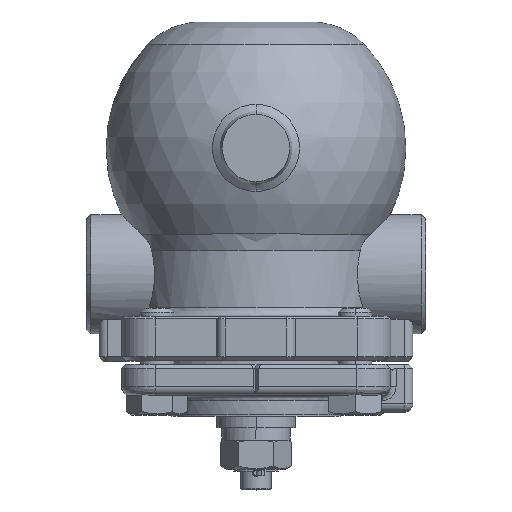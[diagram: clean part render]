
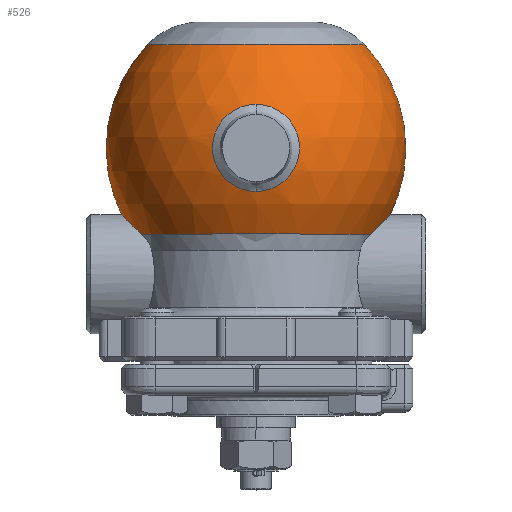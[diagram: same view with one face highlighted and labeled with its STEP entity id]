
A CAD part, top view. The second image highlights one B-rep face of the part: STEP entity #526.
In plain terms, the highlighted spherical face has radius 53.5 mm.
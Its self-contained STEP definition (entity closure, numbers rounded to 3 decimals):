
#526=ADVANCED_FACE('',(#4769,#4770),#4768,.T.);
#4768=SPHERICAL_SURFACE('',#8615,53.5);
#4769=FACE_OUTER_BOUND('',#8616,.T.);
#4770=FACE_BOUND('',#8617,.T.);
#8612=CARTESIAN_POINT('',(0.,67.3,0.));
#8613=DIRECTION('',(0.,-1.,0.));
#8614=DIRECTION('',(1.,0.,-0.009));
#8615=AXIS2_PLACEMENT_3D('',#8612,#8613,#8614);
#8616=EDGE_LOOP('',(#11435,#11436,#11437,#11438,#11439,#11440,#11441,#11442));
#8617=EDGE_LOOP('',(#11443,#11444));
#11435=ORIENTED_EDGE('',*,*,#12817,.T.);
#11436=ORIENTED_EDGE('',*,*,#12289,.F.);
#11437=ORIENTED_EDGE('',*,*,#12805,.T.);
#11438=ORIENTED_EDGE('',*,*,#12811,.T.);
#11439=ORIENTED_EDGE('',*,*,#12843,.F.);
#11440=ORIENTED_EDGE('',*,*,#12825,.T.);
#11441=ORIENTED_EDGE('',*,*,#12823,.T.);
#11442=ORIENTED_EDGE('',*,*,#12844,.T.);
#11443=ORIENTED_EDGE('',*,*,#12832,.T.);
#11444=ORIENTED_EDGE('',*,*,#12827,.T.);
#12289=EDGE_CURVE('',#16729,#16736,#16737,.T.);
#12805=EDGE_CURVE('',#16729,#20098,#20099,.T.);
#12811=EDGE_CURVE('',#20098,#20131,#20138,.T.);
#12817=EDGE_CURVE('',#20178,#16736,#20179,.T.);
#12823=EDGE_CURVE('',#20218,#20211,#20219,.T.);
#12825=EDGE_CURVE('',#20231,#20218,#20232,.T.);
#12827=EDGE_CURVE('',#20244,#20245,#20246,.T.);
#12832=EDGE_CURVE('',#20245,#20244,#20278,.T.);
#12843=EDGE_CURVE('',#20231,#20131,#20348,.T.);
#12844=EDGE_CURVE('',#20211,#20178,#20354,.T.);
#16729=VERTEX_POINT('',#23731);
#16736=VERTEX_POINT('',#23742);
#16737=CIRCLE('',#23746,43.811);
#20098=VERTEX_POINT('',#26023);
#20099=(BOUNDED_CURVE() B_SPLINE_CURVE(3,(#26024,#26025,#26026,#26027,#26028,#26029,#26030,#26031,#26032,#26033,#26034,#26035,#26036,#26037,#26038,#26039),.UNSPECIFIED.,.F.,.F.) B_SPLINE_CURVE_WITH_KNOTS((4,2,2,2,2,2,2,4),(0.,0.005,0.007,0.01,0.012,0.015,0.019,0.019),.UNSPECIFIED.) CURVE() GEOMETRIC_REPRESENTATION_ITEM() RATIONAL_B_SPLINE_CURVE((1.,1.,1.,1.,1.,1.,1.,1.,1.,1.,1.,1.,1.,1.,1.,1.)) REPRESENTATION_ITEM('') );
#20131=VERTEX_POINT('',#26054);
#20138=(BOUNDED_CURVE() B_SPLINE_CURVE(3,(#26075,#26076,#26077,#26078),.UNSPECIFIED.,.F.,.F.) B_SPLINE_CURVE_WITH_KNOTS((4,4),(0.019,0.02),.UNSPECIFIED.) CURVE() GEOMETRIC_REPRESENTATION_ITEM() RATIONAL_B_SPLINE_CURVE((1.,1.,1.,1.)) REPRESENTATION_ITEM('') );
#20178=VERTEX_POINT('',#26108);
#20179=(BOUNDED_CURVE() B_SPLINE_CURVE(3,(#26109,#26110,#26111,#26112,#26113,#26114,#26115,#26116,#26117,#26118,#26119,#26120,#26121,#26122,#26123,#26124,#26125,#26126,#26127,#26128),.UNSPECIFIED.,.F.,.F.) B_SPLINE_CURVE_WITH_KNOTS((4,2,2,2,2,2,2,2,2,4),(0.02,0.022,0.024,0.025,0.027,0.029,0.031,0.034,0.036,0.039),.UNSPECIFIED.) CURVE() GEOMETRIC_REPRESENTATION_ITEM() RATIONAL_B_SPLINE_CURVE((1.,1.,1.,1.,1.,1.,1.,1.,1.,1.,1.,1.,1.,1.,1.,1.,1.,1.,1.,1.)) REPRESENTATION_ITEM('') );
#20211=VERTEX_POINT('',#26151);
#20218=VERTEX_POINT('',#26156);
#20219=CIRCLE('',#26160,38.677);
#20231=VERTEX_POINT('',#26166);
#20232=CIRCLE('',#26170,38.677);
#20244=VERTEX_POINT('',#26175);
#20245=VERTEX_POINT('',#26176);
#20246=CIRCLE('',#26180,15.547);
#20278=CIRCLE('',#26200,15.547);
#20348=(BOUNDED_CURVE() B_SPLINE_CURVE(2,(#26235,#26236,#26237),.UNSPECIFIED.,.F.,.F.) B_SPLINE_CURVE_WITH_KNOTS((3,3),(0.,0.883),.UNSPECIFIED.) CURVE() GEOMETRIC_REPRESENTATION_ITEM() RATIONAL_B_SPLINE_CURVE((1.,0.8,0.953)) REPRESENTATION_ITEM('') );
#20354=(BOUNDED_CURVE() B_SPLINE_CURVE(2,(#26238,#26239,#26240),.UNSPECIFIED.,.F.,.F.) B_SPLINE_CURVE_WITH_KNOTS((3,3),(0.,0.883),.UNSPECIFIED.) CURVE() GEOMETRIC_REPRESENTATION_ITEM() RATIONAL_B_SPLINE_CURVE((0.75,0.6,0.715)) REPRESENTATION_ITEM('') );
#23731=CARTESIAN_POINT('',(40.886,36.594,15.739));
#23742=CARTESIAN_POINT('',(-40.886,36.594,15.739));
#23743=CARTESIAN_POINT('',(0.,36.594,0.));
#23744=DIRECTION('',(0.,-1.,0.));
#23745=DIRECTION('',(-1.,0.,0.));
#23746=AXIS2_PLACEMENT_3D('',#23743,#23744,#23745);
#26023=CARTESIAN_POINT('',(47.945,43.561,0.004));
#26024=CARTESIAN_POINT('',(40.886,36.594,15.739));
#26025=CARTESIAN_POINT('',(41.917,37.53,14.889));
#26026=CARTESIAN_POINT('',(42.86,38.423,13.928));
#26027=CARTESIAN_POINT('',(44.139,39.665,12.287));
#26028=CARTESIAN_POINT('',(44.542,40.063,11.707));
#26029=CARTESIAN_POINT('',(45.299,40.818,10.471));
#26030=CARTESIAN_POINT('',(45.646,41.169,9.826));
#26031=CARTESIAN_POINT('',(46.273,41.81,8.483));
#26032=CARTESIAN_POINT('',(46.554,42.1,7.784));
#26033=CARTESIAN_POINT('',(47.047,42.613,6.327));
#26034=CARTESIAN_POINT('',(47.26,42.836,5.562));
#26035=CARTESIAN_POINT('',(47.768,43.372,3.247));
#26036=CARTESIAN_POINT('',(47.944,43.56,1.658));
#26037=CARTESIAN_POINT('',(47.945,43.561,0.015));
#26038=CARTESIAN_POINT('',(47.945,43.561,0.009));
#26039=CARTESIAN_POINT('',(47.945,43.561,0.004));
#26054=CARTESIAN_POINT('',(47.941,43.557,-0.418));
#26075=CARTESIAN_POINT('',(47.945,43.561,0.004));
#26076=CARTESIAN_POINT('',(47.945,43.561,-0.137));
#26077=CARTESIAN_POINT('',(47.944,43.56,-0.278));
#26078=CARTESIAN_POINT('',(47.941,43.557,-0.418));
#26108=CARTESIAN_POINT('',(-47.941,43.557,0.421));
#26109=CARTESIAN_POINT('',(-47.941,43.557,0.421));
#26110=CARTESIAN_POINT('',(-47.929,43.544,1.09));
#26111=CARTESIAN_POINT('',(-47.887,43.499,1.753));
#26112=CARTESIAN_POINT('',(-47.731,43.334,3.206));
#26113=CARTESIAN_POINT('',(-47.603,43.198,3.993));
#26114=CARTESIAN_POINT('',(-47.349,42.93,5.158));
#26115=CARTESIAN_POINT('',(-47.253,42.829,5.545));
#26116=CARTESIAN_POINT('',(-47.044,42.61,6.302));
#26117=CARTESIAN_POINT('',(-46.93,42.491,6.673));
#26118=CARTESIAN_POINT('',(-46.561,42.107,7.766));
#26119=CARTESIAN_POINT('',(-46.28,41.817,8.467));
#26120=CARTESIAN_POINT('',(-45.649,41.172,9.82));
#26121=CARTESIAN_POINT('',(-45.298,40.817,10.473));
#26122=CARTESIAN_POINT('',(-44.547,40.068,11.699));
#26123=CARTESIAN_POINT('',(-44.146,39.672,12.277));
#26124=CARTESIAN_POINT('',(-43.296,38.846,13.37));
#26125=CARTESIAN_POINT('',(-42.846,38.415,13.884));
#26126=CARTESIAN_POINT('',(-41.9,37.524,14.856));
#26127=CARTESIAN_POINT('',(-41.402,37.063,15.314));
#26128=CARTESIAN_POINT('',(-40.886,36.594,15.739));
#26151=CARTESIAN_POINT('',(-38.676,104.264,0.338));
#26156=CARTESIAN_POINT('',(38.677,104.264,0.));
#26157=CARTESIAN_POINT('',(0.,104.264,0.));
#26158=DIRECTION('',(0.,-1.,0.));
#26159=DIRECTION('',(1.,0.,0.));
#26160=AXIS2_PLACEMENT_3D('',#26157,#26158,#26159);
#26166=CARTESIAN_POINT('',(38.676,104.264,-0.338));
#26167=CARTESIAN_POINT('',(0.,104.264,0.));
#26168=DIRECTION('',(0.,-1.,0.));
#26169=DIRECTION('',(1.,0.,0.));
#26170=AXIS2_PLACEMENT_3D('',#26167,#26168,#26169);
#26175=CARTESIAN_POINT('',(0.,82.847,51.191));
#26176=CARTESIAN_POINT('',(0.,51.753,51.191));
#26177=CARTESIAN_POINT('',(0.,67.3,51.191));
#26178=DIRECTION('',(0.,0.,-1.));
#26179=DIRECTION('',(0.,-1.,0.));
#26180=AXIS2_PLACEMENT_3D('',#26177,#26178,#26179);
#26197=CARTESIAN_POINT('',(0.,67.3,51.191));
#26198=DIRECTION('',(0.,0.,-1.));
#26199=DIRECTION('',(0.,-1.,0.));
#26200=AXIS2_PLACEMENT_3D('',#26197,#26198,#26199);
#26235=CARTESIAN_POINT('',(38.676,104.264,-0.338));
#26236=CARTESIAN_POINT('',(64.58,77.157,-0.564));
#26237=CARTESIAN_POINT('',(47.941,43.557,-0.418));
#26238=CARTESIAN_POINT('',(-38.676,104.264,0.338));
#26239=CARTESIAN_POINT('',(-64.58,77.157,0.564));
#26240=CARTESIAN_POINT('',(-47.941,43.557,0.418));
